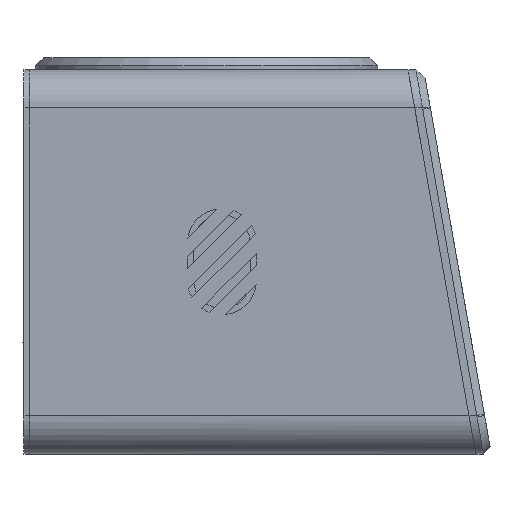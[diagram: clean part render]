
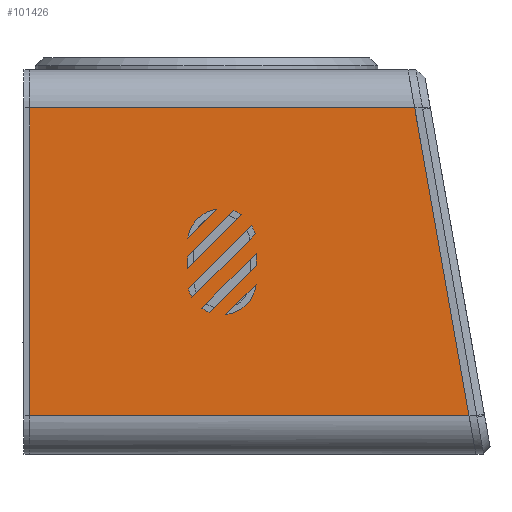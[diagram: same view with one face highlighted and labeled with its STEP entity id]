
A CAD part, left-side view. The second image highlights one B-rep face of the part: STEP entity #101426.
In plain terms, the highlighted planar face has unit normal (-1, 0, 0).
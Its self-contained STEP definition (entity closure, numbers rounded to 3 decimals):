
#1734=FACE_BOUND('',#15728,.T.);
#1735=FACE_BOUND('',#15729,.T.);
#1736=FACE_BOUND('',#15730,.T.);
#1737=FACE_BOUND('',#15731,.T.);
#1738=FACE_BOUND('',#15732,.T.);
#3893=CIRCLE('',#109467,8.95);
#3894=CIRCLE('',#109471,8.95);
#3895=CIRCLE('',#109474,8.95);
#3896=CIRCLE('',#109477,8.95);
#3897=CIRCLE('',#109483,8.95);
#3898=CIRCLE('',#109486,8.95);
#9866=FACE_OUTER_BOUND('',#15727,.T.);
#15727=EDGE_LOOP('',(#84539,#84540,#84541,#84542));
#15728=EDGE_LOOP('',(#84543,#84544));
#15729=EDGE_LOOP('',(#84545,#84546,#84547,#84548));
#15730=EDGE_LOOP('',(#84549,#84550,#84551,#84552));
#15731=EDGE_LOOP('',(#84553,#84554,#84555,#84556));
#15732=EDGE_LOOP('',(#84557,#84558));
#25636=LINE('',#163270,#36812);
#25637=LINE('',#163274,#36813);
#25641=LINE('',#163283,#36817);
#25643=LINE('',#163290,#36819);
#25647=LINE('',#163299,#36823);
#25649=LINE('',#163302,#36825);
#25650=LINE('',#163306,#36826);
#25653=LINE('',#163311,#36829);
#25656=LINE('',#163318,#36832);
#25659=LINE('',#163326,#36835);
#25740=LINE('',#163583,#36916);
#25741=LINE('',#163587,#36917);
#25742=LINE('',#163589,#36918);
#25743=LINE('',#163590,#36919);
#36812=VECTOR('',#132551,10.);
#36813=VECTOR('',#132554,10.);
#36817=VECTOR('',#132564,10.);
#36819=VECTOR('',#132572,10.);
#36823=VECTOR('',#132582,10.);
#36825=VECTOR('',#132586,10.);
#36826=VECTOR('',#132589,10.);
#36829=VECTOR('',#132594,10.);
#36832=VECTOR('',#132603,10.);
#36835=VECTOR('',#132612,10.);
#36916=VECTOR('',#132893,10.);
#36917=VECTOR('',#132898,10.);
#36918=VECTOR('',#132899,10.);
#36919=VECTOR('',#132900,10.);
#46352=VERTEX_POINT('',#163264);
#46353=VERTEX_POINT('',#163265);
#46354=VERTEX_POINT('',#163272);
#46355=VERTEX_POINT('',#163273);
#46356=VERTEX_POINT('',#163278);
#46357=VERTEX_POINT('',#163282);
#46358=VERTEX_POINT('',#163288);
#46359=VERTEX_POINT('',#163289);
#46360=VERTEX_POINT('',#163294);
#46361=VERTEX_POINT('',#163298);
#46362=VERTEX_POINT('',#163304);
#46363=VERTEX_POINT('',#163305);
#46364=VERTEX_POINT('',#163310);
#46365=VERTEX_POINT('',#163314);
#46366=VERTEX_POINT('',#163320);
#46367=VERTEX_POINT('',#163321);
#46442=VERTEX_POINT('',#163580);
#46443=VERTEX_POINT('',#163582);
#46444=VERTEX_POINT('',#163586);
#46445=VERTEX_POINT('',#163588);
#59288=EDGE_CURVE('',#46352,#46353,#3893,.T.);
#59291=EDGE_CURVE('',#46353,#46352,#25636,.T.);
#59292=EDGE_CURVE('',#46354,#46355,#25637,.T.);
#59295=EDGE_CURVE('',#46355,#46356,#3894,.T.);
#59297=EDGE_CURVE('',#46356,#46357,#25641,.T.);
#59299=EDGE_CURVE('',#46357,#46354,#3895,.T.);
#59300=EDGE_CURVE('',#46358,#46359,#25643,.T.);
#59303=EDGE_CURVE('',#46359,#46360,#3896,.T.);
#59305=EDGE_CURVE('',#46360,#46361,#25647,.T.);
#59307=EDGE_CURVE('',#46361,#46358,#25649,.T.);
#59308=EDGE_CURVE('',#46362,#46363,#25650,.T.);
#59311=EDGE_CURVE('',#46363,#46364,#25653,.T.);
#59313=EDGE_CURVE('',#46364,#46365,#3897,.T.);
#59315=EDGE_CURVE('',#46365,#46362,#25656,.T.);
#59316=EDGE_CURVE('',#46366,#46367,#3898,.T.);
#59319=EDGE_CURVE('',#46367,#46366,#25659,.T.);
#59442=EDGE_CURVE('',#46442,#46443,#25740,.T.);
#59444=EDGE_CURVE('',#46442,#46444,#25741,.T.);
#59445=EDGE_CURVE('',#46445,#46444,#25742,.T.);
#59446=EDGE_CURVE('',#46445,#46443,#25743,.T.);
#84539=ORIENTED_EDGE('',*,*,#59442,.F.);
#84540=ORIENTED_EDGE('',*,*,#59444,.T.);
#84541=ORIENTED_EDGE('',*,*,#59445,.F.);
#84542=ORIENTED_EDGE('',*,*,#59446,.T.);
#84543=ORIENTED_EDGE('',*,*,#59291,.T.);
#84544=ORIENTED_EDGE('',*,*,#59288,.T.);
#84545=ORIENTED_EDGE('',*,*,#59297,.T.);
#84546=ORIENTED_EDGE('',*,*,#59299,.T.);
#84547=ORIENTED_EDGE('',*,*,#59292,.T.);
#84548=ORIENTED_EDGE('',*,*,#59295,.T.);
#84549=ORIENTED_EDGE('',*,*,#59305,.T.);
#84550=ORIENTED_EDGE('',*,*,#59307,.T.);
#84551=ORIENTED_EDGE('',*,*,#59300,.T.);
#84552=ORIENTED_EDGE('',*,*,#59303,.T.);
#84553=ORIENTED_EDGE('',*,*,#59313,.T.);
#84554=ORIENTED_EDGE('',*,*,#59315,.T.);
#84555=ORIENTED_EDGE('',*,*,#59308,.T.);
#84556=ORIENTED_EDGE('',*,*,#59311,.T.);
#84557=ORIENTED_EDGE('',*,*,#59319,.T.);
#84558=ORIENTED_EDGE('',*,*,#59316,.T.);
#93242=PLANE('',#109589);
#101426=ADVANCED_FACE('',(#9866,#1734,#1735,#1736,#1737,#1738),#93242,.T.);
#109467=AXIS2_PLACEMENT_3D('',#163266,#132545,#132546);
#109471=AXIS2_PLACEMENT_3D('',#163279,#132559,#132560);
#109474=AXIS2_PLACEMENT_3D('',#163286,#132568,#132569);
#109477=AXIS2_PLACEMENT_3D('',#163295,#132577,#132578);
#109483=AXIS2_PLACEMENT_3D('',#163315,#132598,#132599);
#109486=AXIS2_PLACEMENT_3D('',#163322,#132606,#132607);
#109589=AXIS2_PLACEMENT_3D('',#163585,#132896,#132897);
#132545=DIRECTION('center_axis',(1.,0.,0.));
#132546=DIRECTION('ref_axis',(0.,-1.,0.));
#132551=DIRECTION('',(0.,-0.707,0.707));
#132554=DIRECTION('',(0.,-0.707,0.707));
#132559=DIRECTION('center_axis',(1.,0.,0.));
#132560=DIRECTION('ref_axis',(0.,1.,0.));
#132564=DIRECTION('',(0.,0.707,-0.707));
#132568=DIRECTION('center_axis',(1.,0.,0.));
#132569=DIRECTION('ref_axis',(0.,-1.,0.));
#132572=DIRECTION('',(0.,-0.707,0.707));
#132577=DIRECTION('center_axis',(1.,0.,0.));
#132578=DIRECTION('ref_axis',(0.,1.,0.));
#132582=DIRECTION('',(0.,0.707,-0.707));
#132586=DIRECTION('',(0.,0.,1.));
#132589=DIRECTION('',(0.,0.,-1.));
#132594=DIRECTION('',(0.,0.707,-0.707));
#132598=DIRECTION('center_axis',(1.,0.,0.));
#132599=DIRECTION('ref_axis',(0.,-1.,0.));
#132603=DIRECTION('',(0.,-0.707,0.707));
#132606=DIRECTION('center_axis',(1.,0.,0.));
#132607=DIRECTION('ref_axis',(0.,1.,0.));
#132612=DIRECTION('',(0.,0.707,-0.707));
#132893=DIRECTION('',(0.,1.,0.));
#132896=DIRECTION('center_axis',(-1.,0.,0.));
#132897=DIRECTION('ref_axis',(0.,0.,1.));
#132898=DIRECTION('',(0.,0.174,0.985));
#132899=DIRECTION('',(0.,-1.,0.));
#132900=DIRECTION('',(0.,0.,-1.));
#163264=CARTESIAN_POINT('',(-55.,57.1,44.201));
#163265=CARTESIAN_POINT('',(-55.,65.051,36.25));
#163266=CARTESIAN_POINT('Origin',(-55.,66.,45.15));
#163270=CARTESIAN_POINT('',(-55.,55.876,45.426));
#163272=CARTESIAN_POINT('',(-55.,74.692,43.015));
#163273=CARTESIAN_POINT('',(-55.,58.298,59.409));
#163274=CARTESIAN_POINT('',(-55.,60.543,57.164));
#163278=CARTESIAN_POINT('',(-55.,57.371,57.224));
#163279=CARTESIAN_POINT('Origin',(-55.,66.,54.85));
#163282=CARTESIAN_POINT('',(-55.,73.812,40.783));
#163283=CARTESIAN_POINT('',(-55.,67.591,47.004));
#163286=CARTESIAN_POINT('Origin',(-55.,66.,45.15));
#163288=CARTESIAN_POINT('',(-55.,74.95,51.242));
#163289=CARTESIAN_POINT('',(-55.,62.933,63.258));
#163290=CARTESIAN_POINT('',(-55.,65.085,61.107));
#163294=CARTESIAN_POINT('',(-55.,60.886,62.195));
#163295=CARTESIAN_POINT('Origin',(-55.,66.,54.85));
#163298=CARTESIAN_POINT('',(-55.,74.95,48.13));
#163299=CARTESIAN_POINT('',(-55.,70.387,52.694));
#163302=CARTESIAN_POINT('',(-55.,74.95,50.904));
#163304=CARTESIAN_POINT('',(-55.,57.05,52.171));
#163305=CARTESIAN_POINT('',(-55.,57.05,49.06));
#163306=CARTESIAN_POINT('',(-55.,57.05,49.247));
#163310=CARTESIAN_POINT('',(-55.,69.285,36.825));
#163311=CARTESIAN_POINT('',(-55.,63.104,43.005));
#163314=CARTESIAN_POINT('',(-55.,71.29,37.931));
#163315=CARTESIAN_POINT('Origin',(-55.,66.,45.15));
#163318=CARTESIAN_POINT('',(-55.,57.689,51.532));
#163320=CARTESIAN_POINT('',(-55.,74.856,56.144));
#163321=CARTESIAN_POINT('',(-55.,67.294,63.706));
#163322=CARTESIAN_POINT('Origin',(-55.,66.,54.85));
#163326=CARTESIAN_POINT('',(-55.,72.178,58.822));
#163580=CARTESIAN_POINT('',(-55.,1.763,10.));
#163582=CARTESIAN_POINT('',(-55.,116.,10.));
#163583=CARTESIAN_POINT('',(-55.,29.,10.));
#163585=CARTESIAN_POINT('Origin',(-55.,58.,50.));
#163586=CARTESIAN_POINT('',(-55.,15.869,90.));
#163587=CARTESIAN_POINT('',(-55.,0.,0.));
#163588=CARTESIAN_POINT('',(-55.,116.,90.));
#163589=CARTESIAN_POINT('',(-55.,87.,90.));
#163590=CARTESIAN_POINT('',(-55.,116.,100.));
